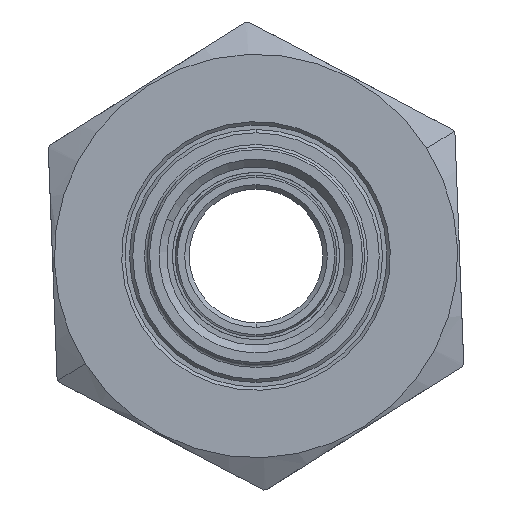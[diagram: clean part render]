
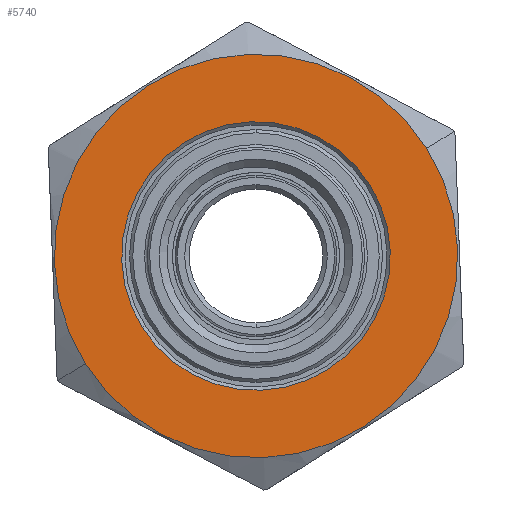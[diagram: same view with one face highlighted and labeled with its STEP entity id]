
A CAD part, left-side view. The second image highlights one B-rep face of the part: STEP entity #5740.
In plain terms, the highlighted planar face has unit normal (-1, 0, 0).
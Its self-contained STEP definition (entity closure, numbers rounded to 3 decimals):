
#412 = VERTEX_POINT('',#413);
#413 = CARTESIAN_POINT('',(-28.615,-4.402,
    25.568));
#420 = CONICAL_SURFACE('',#421,12.05,0.785);
#421 = AXIS2_PLACEMENT_3D('',#422,#423,#424);
#422 = CARTESIAN_POINT('',(-28.615,5.796,19.15));
#423 = DIRECTION('',(-1.,0.,0.));
#424 = DIRECTION('',(0.,-0.846,0.533)
  );
#432 = CONICAL_SURFACE('',#433,12.05,0.785);
#433 = AXIS2_PLACEMENT_3D('',#434,#435,#436);
#434 = CARTESIAN_POINT('',(-28.615,5.796,19.15));
#435 = DIRECTION('',(-1.,0.,0.));
#436 = DIRECTION('',(0.,-0.846,0.533)
  );
#444 = EDGE_CURVE('',#412,#445,#447,.T.);
#445 = VERTEX_POINT('',#446);
#446 = CARTESIAN_POINT('',(-28.615,15.994,
    12.732));
#447 = SURFACE_CURVE('',#448,(#453,#460),.PCURVE_S1.);
#448 = CIRCLE('',#449,12.05);
#449 = AXIS2_PLACEMENT_3D('',#450,#451,#452);
#450 = CARTESIAN_POINT('',(-28.615,5.796,19.15));
#451 = DIRECTION('',(1.,0.,0.));
#452 = DIRECTION('',(0.,0.846,-0.533)
  );
#453 = PCURVE('',#420,#454);
#454 = DEFINITIONAL_REPRESENTATION('',(#455),#459);
#455 = LINE('',#456,#457);
#456 = CARTESIAN_POINT('',(9.425,0.));
#457 = VECTOR('',#458,1.);
#458 = DIRECTION('',(-1.,0.));
#459 = ( GEOMETRIC_REPRESENTATION_CONTEXT(2) 
PARAMETRIC_REPRESENTATION_CONTEXT() REPRESENTATION_CONTEXT('2D SPACE',''
  ) );
#460 = PCURVE('',#461,#466);
#461 = PLANE('',#462);
#462 = AXIS2_PLACEMENT_3D('',#463,#464,#465);
#463 = CARTESIAN_POINT('',(-28.615,12.054,
    29.095));
#464 = DIRECTION('',(1.,0.,0.));
#465 = DIRECTION('',(0.,0.846,-0.533)
  );
#466 = DEFINITIONAL_REPRESENTATION('',(#467),#471);
#467 = CIRCLE('',#468,12.05);
#468 = AXIS2_PLACEMENT_2D('',#469,#470);
#469 = CARTESIAN_POINT('',(0.,-11.75));
#470 = DIRECTION('',(1.,0.));
#471 = ( GEOMETRIC_REPRESENTATION_CONTEXT(2) 
PARAMETRIC_REPRESENTATION_CONTEXT() REPRESENTATION_CONTEXT('2D SPACE',''
  ) );
#964 = EDGE_CURVE('',#965,#967,#969,.T.);
#965 = VERTEX_POINT('',#966);
#966 = CARTESIAN_POINT('',(-28.615,21.115,
    9.509));
#967 = VERTEX_POINT('',#968);
#968 = CARTESIAN_POINT('',(-28.615,-9.523,
    28.791));
#969 = SURFACE_CURVE('',#970,(#975,#987),.PCURVE_S1.);
#970 = CIRCLE('',#971,18.1);
#971 = AXIS2_PLACEMENT_3D('',#972,#973,#974);
#972 = CARTESIAN_POINT('',(-28.615,5.796,19.15));
#973 = DIRECTION('',(1.,0.,0.));
#974 = DIRECTION('',(0.,0.846,-0.533)
  );
#975 = PCURVE('',#976,#981);
#976 = CONICAL_SURFACE('',#977,22.763,1.047);
#977 = AXIS2_PLACEMENT_3D('',#978,#979,#980);
#978 = CARTESIAN_POINT('',(-25.922,5.796,19.15));
#979 = DIRECTION('',(1.,0.,0.));
#980 = DIRECTION('',(0.,0.846,-0.533)
  );
#981 = DEFINITIONAL_REPRESENTATION('',(#982),#986);
#982 = LINE('',#983,#984);
#983 = CARTESIAN_POINT('',(0.,-2.692));
#984 = VECTOR('',#985,1.);
#985 = DIRECTION('',(1.,0.));
#986 = ( GEOMETRIC_REPRESENTATION_CONTEXT(2) 
PARAMETRIC_REPRESENTATION_CONTEXT() REPRESENTATION_CONTEXT('2D SPACE',''
  ) );
#987 = PCURVE('',#461,#988);
#988 = DEFINITIONAL_REPRESENTATION('',(#989),#993);
#989 = CIRCLE('',#990,18.1);
#990 = AXIS2_PLACEMENT_2D('',#991,#992);
#991 = CARTESIAN_POINT('',(0.,-11.75));
#992 = DIRECTION('',(1.,0.));
#993 = ( GEOMETRIC_REPRESENTATION_CONTEXT(2) 
PARAMETRIC_REPRESENTATION_CONTEXT() REPRESENTATION_CONTEXT('2D SPACE',''
  ) );
#1011 = CONICAL_SURFACE('',#1012,22.763,1.047);
#1012 = AXIS2_PLACEMENT_3D('',#1013,#1014,#1015);
#1013 = CARTESIAN_POINT('',(-25.922,5.796,19.15));
#1014 = DIRECTION('',(1.,0.,0.));
#1015 = DIRECTION('',(0.,0.846,-0.533)
  );
#5740 = ADVANCED_FACE('',(#5741,#5766),#461,.F.);
#5741 = FACE_BOUND('',#5742,.T.);
#5742 = EDGE_LOOP('',(#5743,#5744));
#5743 = ORIENTED_EDGE('',*,*,#444,.T.);
#5744 = ORIENTED_EDGE('',*,*,#5745,.T.);
#5745 = EDGE_CURVE('',#445,#412,#5746,.T.);
#5746 = SURFACE_CURVE('',#5747,(#5752,#5759),.PCURVE_S1.);
#5747 = CIRCLE('',#5748,12.05);
#5748 = AXIS2_PLACEMENT_3D('',#5749,#5750,#5751);
#5749 = CARTESIAN_POINT('',(-28.615,5.796,19.15));
#5750 = DIRECTION('',(1.,0.,0.));
#5751 = DIRECTION('',(0.,0.846,-0.533)
  );
#5752 = PCURVE('',#461,#5753);
#5753 = DEFINITIONAL_REPRESENTATION('',(#5754),#5758);
#5754 = CIRCLE('',#5755,12.05);
#5755 = AXIS2_PLACEMENT_2D('',#5756,#5757);
#5756 = CARTESIAN_POINT('',(0.,-11.75));
#5757 = DIRECTION('',(1.,0.));
#5758 = ( GEOMETRIC_REPRESENTATION_CONTEXT(2) 
PARAMETRIC_REPRESENTATION_CONTEXT() REPRESENTATION_CONTEXT('2D SPACE',''
  ) );
#5759 = PCURVE('',#432,#5760);
#5760 = DEFINITIONAL_REPRESENTATION('',(#5761),#5765);
#5761 = LINE('',#5762,#5763);
#5762 = CARTESIAN_POINT('',(3.142,0.));
#5763 = VECTOR('',#5764,1.);
#5764 = DIRECTION('',(-1.,0.));
#5765 = ( GEOMETRIC_REPRESENTATION_CONTEXT(2) 
PARAMETRIC_REPRESENTATION_CONTEXT() REPRESENTATION_CONTEXT('2D SPACE',''
  ) );
#5766 = FACE_BOUND('',#5767,.T.);
#5767 = EDGE_LOOP('',(#5768,#5769));
#5768 = ORIENTED_EDGE('',*,*,#964,.F.);
#5769 = ORIENTED_EDGE('',*,*,#5770,.F.);
#5770 = EDGE_CURVE('',#967,#965,#5771,.T.);
#5771 = SURFACE_CURVE('',#5772,(#5777,#5784),.PCURVE_S1.);
#5772 = CIRCLE('',#5773,18.1);
#5773 = AXIS2_PLACEMENT_3D('',#5774,#5775,#5776);
#5774 = CARTESIAN_POINT('',(-28.615,5.796,19.15));
#5775 = DIRECTION('',(1.,0.,0.));
#5776 = DIRECTION('',(0.,0.846,-0.533)
  );
#5777 = PCURVE('',#461,#5778);
#5778 = DEFINITIONAL_REPRESENTATION('',(#5779),#5783);
#5779 = CIRCLE('',#5780,18.1);
#5780 = AXIS2_PLACEMENT_2D('',#5781,#5782);
#5781 = CARTESIAN_POINT('',(0.,-11.75));
#5782 = DIRECTION('',(1.,0.));
#5783 = ( GEOMETRIC_REPRESENTATION_CONTEXT(2) 
PARAMETRIC_REPRESENTATION_CONTEXT() REPRESENTATION_CONTEXT('2D SPACE',''
  ) );
#5784 = PCURVE('',#1011,#5785);
#5785 = DEFINITIONAL_REPRESENTATION('',(#5786),#5790);
#5786 = LINE('',#5787,#5788);
#5787 = CARTESIAN_POINT('',(0.,-2.692));
#5788 = VECTOR('',#5789,1.);
#5789 = DIRECTION('',(1.,0.));
#5790 = ( GEOMETRIC_REPRESENTATION_CONTEXT(2) 
PARAMETRIC_REPRESENTATION_CONTEXT() REPRESENTATION_CONTEXT('2D SPACE',''
  ) );
